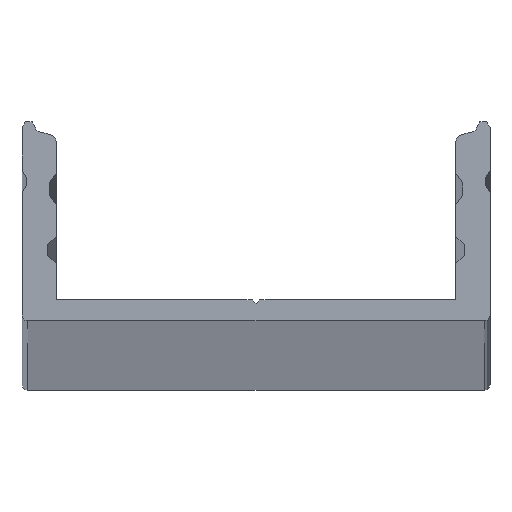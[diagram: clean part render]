
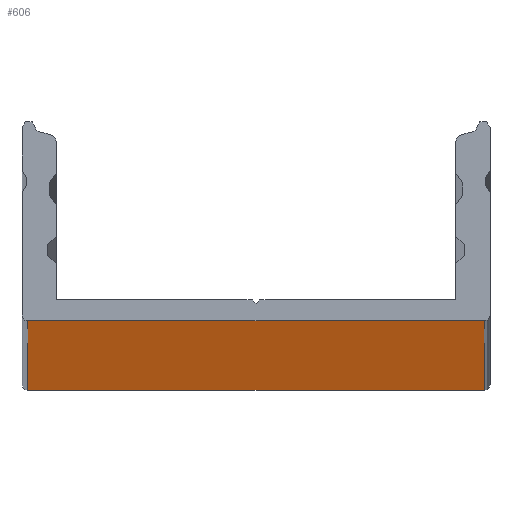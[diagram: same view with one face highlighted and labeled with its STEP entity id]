
A CAD part, top view. The second image highlights one B-rep face of the part: STEP entity #606.
In plain terms, the highlighted planar face has unit normal (0, -1, 0).
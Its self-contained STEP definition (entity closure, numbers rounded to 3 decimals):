
#27 = DIRECTION ( 'NONE',  ( 0., 0., -1. ) ) ;
#136 = EDGE_CURVE ( 'NONE', #747, #410, #669, .T. ) ;
#141 = DIRECTION ( 'NONE',  ( 1., 0., 0. ) ) ;
#143 = EDGE_LOOP ( 'NONE', ( #397, #893, #1023, #604 ) ) ;
#147 = DIRECTION ( 'NONE',  ( 0., 1., 0. ) ) ;
#195 = CARTESIAN_POINT ( 'NONE',  ( 11.448, 0., 2000. ) ) ;
#267 = CARTESIAN_POINT ( 'NONE',  ( -11.448, 0., 2000. ) ) ;
#269 = AXIS2_PLACEMENT_3D ( 'NONE', #808, #147, #319 ) ;
#283 = DIRECTION ( 'NONE',  ( 1., 0., 0. ) ) ;
#299 = VECTOR ( 'NONE', #283, 1000. ) ;
#310 = PLANE ( 'NONE',  #269 ) ;
#319 = DIRECTION ( 'NONE',  ( 0., 0., 1. ) ) ;
#397 = ORIENTED_EDGE ( 'NONE', *, *, #758, .T. ) ;
#399 = VERTEX_POINT ( 'NONE', #597 ) ;
#401 = DIRECTION ( 'NONE',  ( 0., 0., -1. ) ) ;
#410 = VERTEX_POINT ( 'NONE', #763 ) ;
#445 = EDGE_CURVE ( 'NONE', #929, #747, #481, .T. ) ;
#481 = LINE ( 'NONE', #573, #602 ) ;
#573 = CARTESIAN_POINT ( 'NONE',  ( -11.448, 0., 2000. ) ) ;
#580 = VECTOR ( 'NONE', #401, 1000. ) ;
#597 = CARTESIAN_POINT ( 'NONE',  ( -11.448, 0., 0. ) ) ;
#602 = VECTOR ( 'NONE', #141, 1000. ) ;
#604 = ORIENTED_EDGE ( 'NONE', *, *, #765, .T. ) ;
#606 = ADVANCED_FACE ( 'NONE', ( #915 ), #310, .F. ) ;
#631 = CARTESIAN_POINT ( 'NONE',  ( -11.448, 0., 2000. ) ) ;
#669 = LINE ( 'NONE', #932, #580 ) ;
#713 = LINE ( 'NONE', #970, #299 ) ;
#747 = VERTEX_POINT ( 'NONE', #195 ) ;
#758 = EDGE_CURVE ( 'NONE', #399, #410, #713, .T. ) ;
#763 = CARTESIAN_POINT ( 'NONE',  ( 11.448, 0., 0. ) ) ;
#765 = EDGE_CURVE ( 'NONE', #929, #399, #797, .T. ) ;
#785 = VECTOR ( 'NONE', #27, 1000. ) ;
#797 = LINE ( 'NONE', #631, #785 ) ;
#808 = CARTESIAN_POINT ( 'NONE',  ( -11.448, 0., 2000. ) ) ;
#893 = ORIENTED_EDGE ( 'NONE', *, *, #136, .F. ) ;
#915 = FACE_OUTER_BOUND ( 'NONE', #143, .T. ) ;
#929 = VERTEX_POINT ( 'NONE', #267 ) ;
#932 = CARTESIAN_POINT ( 'NONE',  ( 11.448, 0., 2000. ) ) ;
#970 = CARTESIAN_POINT ( 'NONE',  ( -11.448, 0., 0. ) ) ;
#1023 = ORIENTED_EDGE ( 'NONE', *, *, #445, .F. ) ;
